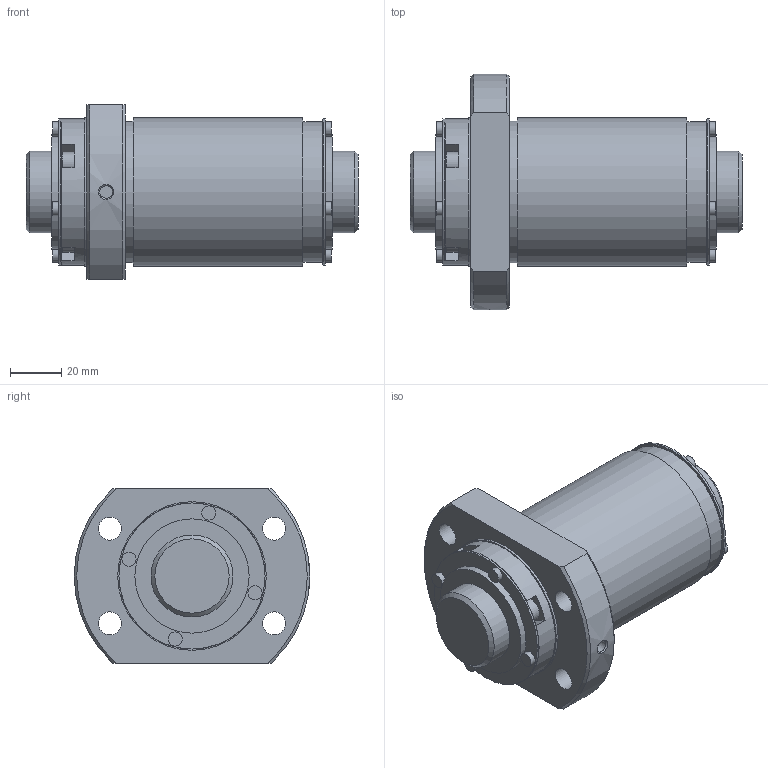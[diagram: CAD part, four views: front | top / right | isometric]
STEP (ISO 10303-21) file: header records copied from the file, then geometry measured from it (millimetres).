
FILE_DESCRIPTION(/* description */ ('STEP AP203'),/* implementation_level */ '2;1');
FILE_NAME(/* name */ 'BLK3232-2.8ZZG1+129.6LC3_N0_1300',/* time_stamp */ '2025-01-16T07:04:54+01:00',/* author */ ('License CC BY-ND 4.0'),/* organization */ ('CADENAS'),/* preprocessor_version */ 'ST-DEVELOPER v19.3',/* originating_system */ 'PARTsolutions',/* authorisation */ ' ');
FILE_SCHEMA (('CONFIG_CONTROL_DESIGN'));
Length unit declared in the file: millimetre
Products named in the file (3): BLK3232-2.8ZZG1+129.6LC3_N0_1300; NZZ0130BLK3232-2.80Shaft; NRR0130BLK3232-2.8Nut
Assembly tree (2 placements, depth 2):
  BLK3232-2.8ZZG1+129.6LC3_N0_1300
    NZZ0130BLK3232-2.80Shaft
    NRR0130BLK3232-2.8Nut
Bounding box: 129.6 x 92 x 68 mm (x, y, z)
Volume: 335126 mm3; surface area: 60832.9 mm2
Topology: 2 solids, 2 shells, 154 faces, 343 edges, 214 vertices
Faces by surface type: plane 95, cylinder 38, cone 17, torus 4
Full cylindrical faces by diameter (mm): 4.5 x4, 4.917 x1, 5.5 x8, 9 x4, 9.45 x4, 32 x2, 44.6 x2, 55 x1, 55.1 x1, 57 x3, 58 x2
Entity records: 4036 total; most frequent: CARTESIAN_POINT 769, DIRECTION 686, ORIENTED_EDGE 558, AXIS2_PLACEMENT_3D 283, EDGE_CURVE 279, FACE_BOUND 238, EDGE_LOOP 234, VERTEX_POINT 203
